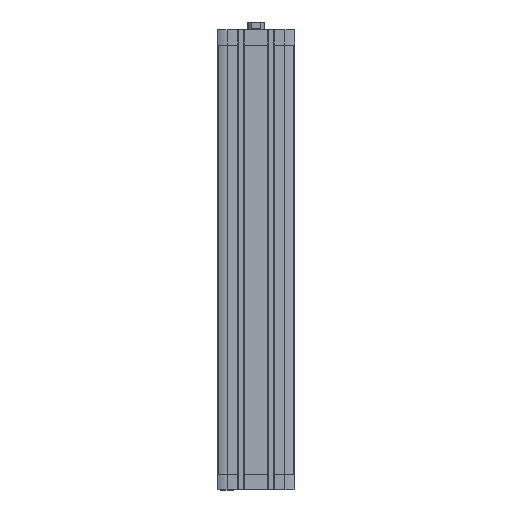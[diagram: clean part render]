
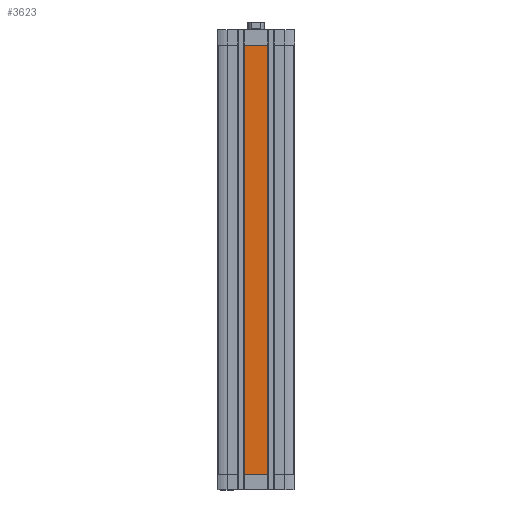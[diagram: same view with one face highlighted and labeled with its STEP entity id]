
A CAD part, front view. The second image highlights one B-rep face of the part: STEP entity #3623.
In plain terms, the highlighted planar face has unit normal (0, -1, 0).
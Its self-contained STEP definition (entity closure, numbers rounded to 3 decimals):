
#2 = ORIENTED_EDGE ( 'NONE', *, *, #11210, .T. ) ;
#304 = CARTESIAN_POINT ( 'NONE',  ( -11.4, -37.5, -434. ) ) ;
#1026 = CARTESIAN_POINT ( 'NONE',  ( 11.4, -37.5, -434. ) ) ;
#1169 = CARTESIAN_POINT ( 'NONE',  ( -11.4, -37.5, -434. ) ) ;
#1347 = LINE ( 'NONE', #5432, #7358 ) ;
#1964 = CARTESIAN_POINT ( 'NONE',  ( -11.4, -37.5, -15. ) ) ;
#2005 = VECTOR ( 'NONE', #7077, 1000. ) ;
#3623 = ADVANCED_FACE ( 'NONE', ( #15295 ), #13180, .T. ) ;
#4489 = CARTESIAN_POINT ( 'NONE',  ( 11.4, -37.5, -15. ) ) ;
#4535 = ORIENTED_EDGE ( 'NONE', *, *, #11078, .T. ) ;
#4536 = DIRECTION ( 'NONE',  ( -1., 0., 0. ) ) ;
#5432 = CARTESIAN_POINT ( 'NONE',  ( -11.4, -37.5, -434. ) ) ;
#5493 = LINE ( 'NONE', #5728, #11674 ) ;
#5728 = CARTESIAN_POINT ( 'NONE',  ( 0., -37.5, -15. ) ) ;
#5924 = VERTEX_POINT ( 'NONE', #14725 ) ;
#6500 = ORIENTED_EDGE ( 'NONE', *, *, #9817, .T. ) ;
#6606 = DIRECTION ( 'NONE',  ( 1., 0., 0. ) ) ;
#7077 = DIRECTION ( 'NONE',  ( 0., 0., 1. ) ) ;
#7105 = DIRECTION ( 'NONE',  ( 0., 0., -1. ) ) ;
#7132 = LINE ( 'NONE', #1169, #10173 ) ;
#7164 = VERTEX_POINT ( 'NONE', #8141 ) ;
#7358 = VECTOR ( 'NONE', #6606, 1000. ) ;
#8141 = CARTESIAN_POINT ( 'NONE',  ( 11.4, -37.5, -434. ) ) ;
#8533 = AXIS2_PLACEMENT_3D ( 'NONE', #304, #12348, #12368 ) ;
#9244 = ORIENTED_EDGE ( 'NONE', *, *, #13562, .T. ) ;
#9817 = EDGE_CURVE ( 'NONE', #5924, #7164, #1347, .T. ) ;
#10173 = VECTOR ( 'NONE', #7105, 1000. ) ;
#11078 = EDGE_CURVE ( 'NONE', #14042, #12221, #5493, .T. ) ;
#11210 = EDGE_CURVE ( 'NONE', #12221, #5924, #7132, .T. ) ;
#11674 = VECTOR ( 'NONE', #4536, 1000. ) ;
#12221 = VERTEX_POINT ( 'NONE', #1964 ) ;
#12348 = DIRECTION ( 'NONE',  ( 0., -1., 0. ) ) ;
#12368 = DIRECTION ( 'NONE',  ( 0., 0., -1. ) ) ;
#13180 = PLANE ( 'NONE',  #8533 ) ;
#13464 = EDGE_LOOP ( 'NONE', ( #6500, #9244, #4535, #2 ) ) ;
#13562 = EDGE_CURVE ( 'NONE', #7164, #14042, #15209, .T. ) ;
#14042 = VERTEX_POINT ( 'NONE', #4489 ) ;
#14725 = CARTESIAN_POINT ( 'NONE',  ( -11.4, -37.5, -434. ) ) ;
#15209 = LINE ( 'NONE', #1026, #2005 ) ;
#15295 = FACE_OUTER_BOUND ( 'NONE', #13464, .T. ) ;
